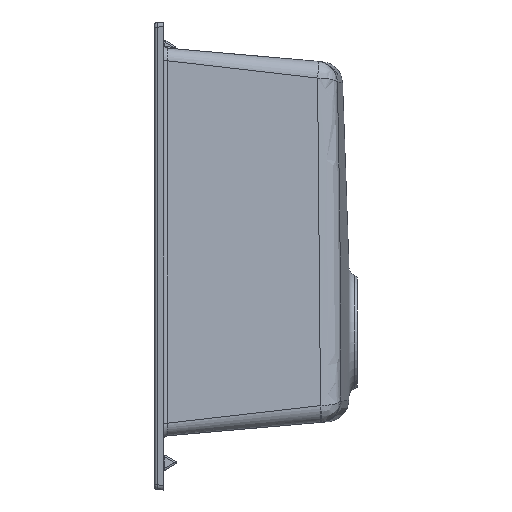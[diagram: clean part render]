
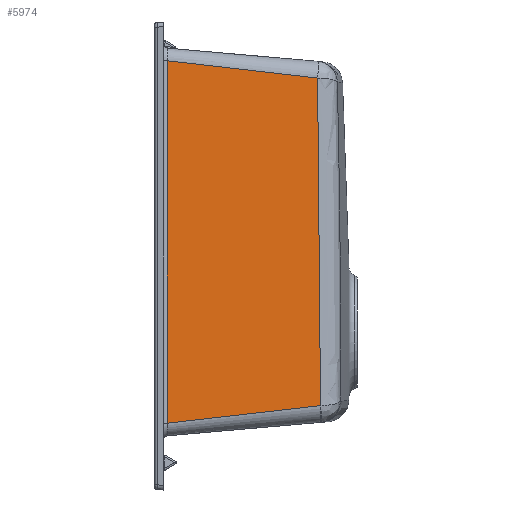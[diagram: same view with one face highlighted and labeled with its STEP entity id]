
A CAD part, left-side view. The second image highlights one B-rep face of the part: STEP entity #5974.
In plain terms, the highlighted planar face has unit normal (-0.996, -0.087, 0).
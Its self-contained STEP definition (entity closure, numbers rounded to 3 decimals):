
#268 = CARTESIAN_POINT ( 'NONE',  ( -368.209, 9.303, 215.24 ) ) ;
#334 = EDGE_CURVE ( 'NONE', #3759, #7546, #3887, .T. ) ;
#823 = EDGE_CURVE ( 'NONE', #12572, #7682, #5256, .T. ) ;
#899 = ORIENTED_EDGE ( 'NONE', *, *, #11181, .F. ) ;
#1005 = DIRECTION ( 'NONE',  ( 0., 0., -1. ) ) ;
#1824 = ORIENTED_EDGE ( 'NONE', *, *, #10961, .T. ) ;
#1914 = CARTESIAN_POINT ( 'NONE',  ( -353.032, -164.17, 190.101 ) ) ;
#2417 = ORIENTED_EDGE ( 'NONE', *, *, #11695, .F. ) ;
#2502 = CARTESIAN_POINT ( 'NONE',  ( -353.034, -164.153, 190.102 ) ) ;
#2588 = CARTESIAN_POINT ( 'NONE',  ( -357.728, -110.496, 194.797 ) ) ;
#2609 = CARTESIAN_POINT ( 'NONE',  ( -362.406, -57.023, 201.609 ) ) ;
#2952 = CARTESIAN_POINT ( 'NONE',  ( -352.773, -167.131, -159.842 ) ) ;
#3053 = CARTESIAN_POINT ( 'NONE',  ( -352.773, -167.131, -159.842 ) ) ;
#3087 = PLANE ( 'NONE',  #14579 ) ;
#3288 = CARTESIAN_POINT ( 'NONE',  ( -352.762, -167.262, -159.828 ) ) ;
#3295 = CARTESIAN_POINT ( 'NONE',  ( -352.741, -167.499, -130.666 ) ) ;
#3312 = CARTESIAN_POINT ( 'NONE',  ( -352.731, -167.609, -101.503 ) ) ;
#3330 = CARTESIAN_POINT ( 'NONE',  ( -352.736, -167.553, -43.178 ) ) ;
#3334 = CARTESIAN_POINT ( 'NONE',  ( -352.751, -167.388, -14.016 ) ) ;
#3359 = CARTESIAN_POINT ( 'NONE',  ( -353.031, -164.179, 190.1 ) ) ;
#3367 = CARTESIAN_POINT ( 'NONE',  ( -352.826, -166.528, 73.471 ) ) ;
#3382 = CARTESIAN_POINT ( 'NONE',  ( -352.918, -165.475, 131.788 ) ) ;
#3759 = VERTEX_POINT ( 'NONE', #7955 ) ;
#3887 = B_SPLINE_CURVE_WITH_KNOTS ( 'NONE', 3,
 ( #4035, #2609, #2588, #2502 ),
 .UNSPECIFIED., .F., .F.,
 ( 4, 4 ),
 ( 0.013, 0.176 ),
 .UNSPECIFIED. ) ;
#4035 = CARTESIAN_POINT ( 'NONE',  ( -367.083, -3.564, 208.579 ) ) ;
#4539 = DIRECTION ( 'NONE',  ( 0.087, -0.996, 0. ) ) ;
#4807 = ORIENTED_EDGE ( 'NONE', *, *, #823, .F. ) ;
#5256 = B_SPLINE_CURVE_WITH_KNOTS ( 'NONE', 3,
 ( #3359, #3382, #3367, #3334, #3330, #3312, #3295, #3288 ),
 .UNSPECIFIED., .F., .F.,
 ( 4, 2, 2, 4 ),
 ( 0., 0.175, 0.262, 0.35 ),
 .UNSPECIFIED. ) ;
#5729 = CARTESIAN_POINT ( 'NONE',  ( -352.762, -167.262, -159.828 ) ) ;
#5974 = ADVANCED_FACE ( 'NONE', ( #7798 ), #3087, .T. ) ;
#6115 = CARTESIAN_POINT ( 'NONE',  ( -353.033, -164.162, 190.101 ) ) ;
#6961 = CARTESIAN_POINT ( 'NONE',  ( -352.762, -167.262, -159.828 ) ) ;
#7546 = VERTEX_POINT ( 'NONE', #15915 ) ;
#7682 = VERTEX_POINT ( 'NONE', #6961 ) ;
#7798 = FACE_OUTER_BOUND ( 'NONE', #8412, .T. ) ;
#7955 = CARTESIAN_POINT ( 'NONE',  ( -367.083, -3.564, 208.579 ) ) ;
#8063 = CARTESIAN_POINT ( 'NONE',  ( -367.083, -3.564, 215.24 ) ) ;
#8228 = CARTESIAN_POINT ( 'NONE',  ( -352.766, -167.219, -159.833 ) ) ;
#8319 = B_SPLINE_CURVE_WITH_KNOTS ( 'NONE', 3,
 ( #16595, #6115, #1914, #11582 ),
 .UNSPECIFIED., .F., .F.,
 ( 4, 4 ),
 ( 0., 0. ),
 .UNSPECIFIED. ) ;
#8412 = EDGE_LOOP ( 'NONE', ( #14510, #1824, #2417, #15832, #4807, #899 ) ) ;
#8519 = CARTESIAN_POINT ( 'NONE',  ( -367.083, -3.564, -178.588 ) ) ;
#8728 = VERTEX_POINT ( 'NONE', #3053 ) ;
#8889 = VECTOR ( 'NONE', #1005, 1000. ) ;
#8964 = CARTESIAN_POINT ( 'NONE',  ( -353.031, -164.179, 190.1 ) ) ;
#9768 = B_SPLINE_CURVE_WITH_KNOTS ( 'NONE', 3,
 ( #13692, #15036, #16351, #8519 ),
 .UNSPECIFIED., .F., .F.,
 ( 4, 4 ),
 ( -0.179, -0.013 ),
 .UNSPECIFIED. ) ;
#10961 = EDGE_CURVE ( 'NONE', #3759, #14078, #12737, .T. ) ;
#11181 = EDGE_CURVE ( 'NONE', #7546, #12572, #8319, .T. ) ;
#11228 = CARTESIAN_POINT ( 'NONE',  ( -352.769, -167.175, -159.838 ) ) ;
#11582 = CARTESIAN_POINT ( 'NONE',  ( -353.031, -164.179, 190.1 ) ) ;
#11695 = EDGE_CURVE ( 'NONE', #8728, #14078, #9768, .T. ) ;
#12572 = VERTEX_POINT ( 'NONE', #8964 ) ;
#12632 = DIRECTION ( 'NONE',  ( -0.996, -0.087, 0. ) ) ;
#12737 = LINE ( 'NONE', #8063, #8889 ) ;
#13692 = CARTESIAN_POINT ( 'NONE',  ( -352.773, -167.131, -159.842 ) ) ;
#14078 = VERTEX_POINT ( 'NONE', #17386 ) ;
#14113 = EDGE_CURVE ( 'NONE', #7682, #8728, #15667, .T. ) ;
#14510 = ORIENTED_EDGE ( 'NONE', *, *, #334, .F. ) ;
#14579 = AXIS2_PLACEMENT_3D ( 'NONE', #268, #12632, #4539 ) ;
#15036 = CARTESIAN_POINT ( 'NONE',  ( -357.554, -112.481, -164.623 ) ) ;
#15667 = B_SPLINE_CURVE_WITH_KNOTS ( 'NONE', 3,
 ( #5729, #8228, #11228, #2952 ),
 .UNSPECIFIED., .F., .F.,
 ( 4, 4 ),
 ( 0., 0. ),
 .UNSPECIFIED. ) ;
#15832 = ORIENTED_EDGE ( 'NONE', *, *, #14113, .F. ) ;
#15915 = CARTESIAN_POINT ( 'NONE',  ( -353.034, -164.153, 190.102 ) ) ;
#16351 = CARTESIAN_POINT ( 'NONE',  ( -362.32, -58.016, -171.528 ) ) ;
#16595 = CARTESIAN_POINT ( 'NONE',  ( -353.034, -164.153, 190.102 ) ) ;
#17386 = CARTESIAN_POINT ( 'NONE',  ( -367.083, -3.564, -178.588 ) ) ;
